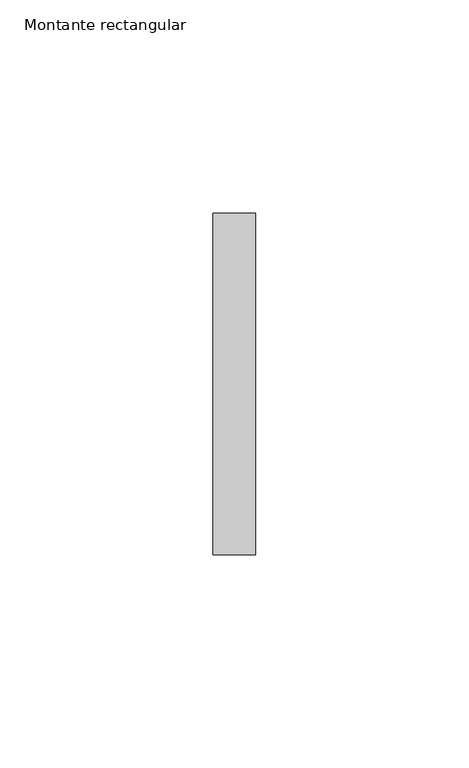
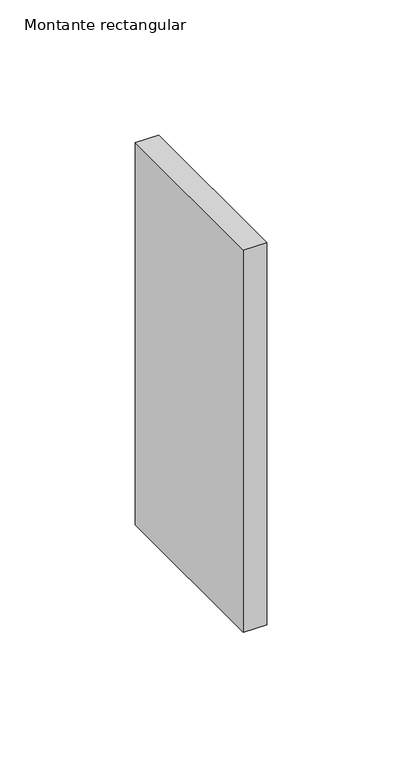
"""IFC4 building model written with IfcOpenShell, lengths in millimetres: member geometry, Montante rectangular : Junta de paves."""

from ifc_helpers import new_model, si_unit, frame, origin, place, context, project, spatial, polyline, outline, extrude, source, transform, mapped, element, save


def montante_rectangular_22364236(model_context):
    return source(origin(), model_context, "Body", "SweptSolid", [
        extrude(outline(polyline([(-10.0, 40.0), (0.0, 40.0), (0.0, -40.0), (-10.0, -40.0), (-10.0, 40.0)])), frame((0.0, 0.0, -172.7385141), z_axis=(0.0, 0.0, 1.0), x_axis=(1.0, 0.0, 0.0)), (0.0, 0.0, 1.0), 172.7385141),
    ])


if __name__ == "__main__":
    model = new_model("IFC4")
    model_context = context("Model", 3, world=origin())
    ifc_project = project(units=[si_unit("LENGTHUNIT", "METRE", prefix="MILLI")], contexts=[model_context])
    site = spatial("IfcSite", under=ifc_project)
    building = spatial("IfcBuilding", under=site)
    placement = place(None, origin())
    montante_rectangular_shape = montante_rectangular_22364236(model_context)
    element("IfcMember", 1, ObjectType="Montante rectangular : Junta de paves", at=placement, inside=building, context=model_context, shape_type="MappedRepresentation", body=[
        mapped(montante_rectangular_shape, transform((0.0, 0.0, 0.0), x_axis=(1.0, 0.0, 0.0), y_axis=(0.0, 1.0, 0.0), z_axis=(0.0, 0.0, 1.0))),
    ])
    save(model, "model.ifc")
